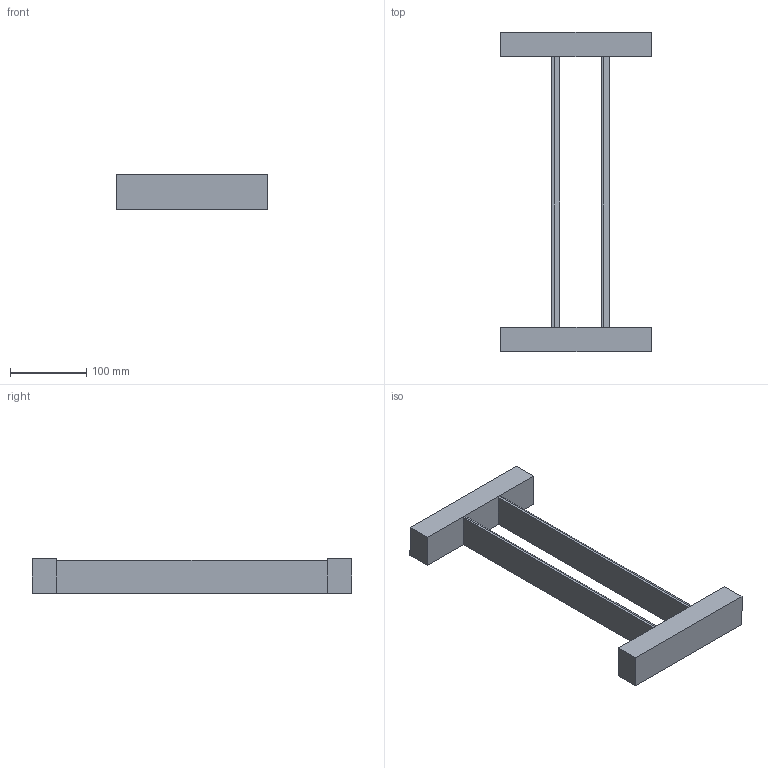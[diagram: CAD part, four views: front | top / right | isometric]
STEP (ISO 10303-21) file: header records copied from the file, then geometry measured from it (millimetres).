
FILE_DESCRIPTION (( 'STEP AP214' ), '1' );
FILE_NAME ('Folieneinsatz.STEP', '2010-10-19T08:11:42', ( 'grass' ), ( '' ), 'SwSTEP 2.0', 'SolidWorks 2010', '' );
FILE_SCHEMA (( 'AUTOMOTIVE_DESIGN' ));
Length unit declared in the file: millimetre
Products named in the file (1): Folieneinsatz
Bounding box: 197 x 419 x 45 mm (x, y, z)
Volume: 860479.9 mm3; surface area: 137661.8 mm2
Topology: 1 solids, 1 shells, 19 faces, 54 edges, 36 vertices
Faces by surface type: plane 19
Entity records: 646 total; most frequent: CARTESIAN_POINT 110, ORIENTED_EDGE 108, DIRECTION 94, EDGE_CURVE 54, LINE 54, VECTOR 54, VERTEX_POINT 36, AXIS2_PLACEMENT_3D 20
